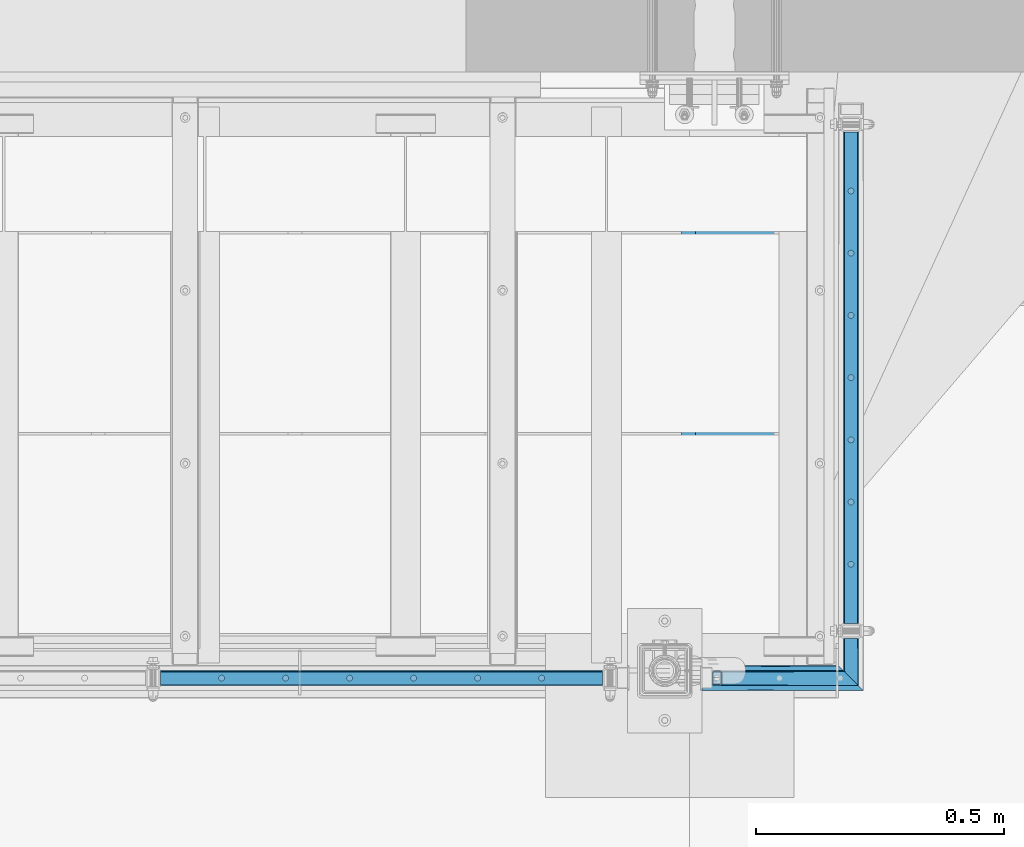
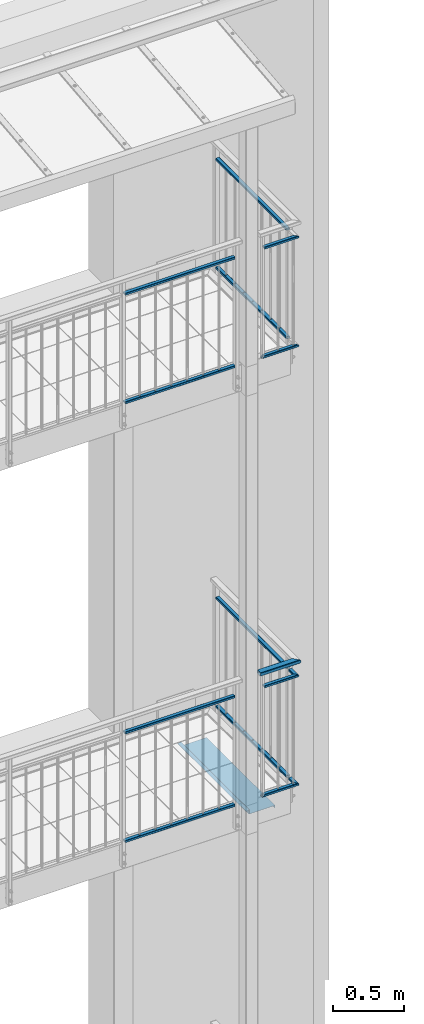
# One storey, part 52 of 162: 16 beams, 65 openings.
"""IFC2X3 building model written with IfcOpenShell, lengths in millimetres."""

from ifc_helpers import new_model, entity, si_unit, converted_unit, frame, frame_2d, origin, origin_with_axes, origin_2d, origin_2d_with_axis, place, context, project, spatial, polyline, hollow_rectangle, circle, outline, extrude, clip, halfspace, material, element, save


model = new_model("IFC2X3")

# Units and contexts
model_context = context("Model", 3, precision=1e-09, world=origin_with_axes())
ifc_project = project(units=[si_unit("LENGTHUNIT", "METRE", prefix="MILLI"), si_unit("AREAUNIT", "SQUARE_METRE"), si_unit("VOLUMEUNIT", "CUBIC_METRE"), converted_unit("PLANEANGLEUNIT", "DEGREE", entity("IfcPlaneAngleMeasure", 0.01745329), si_unit("PLANEANGLEUNIT", "RADIAN"), dimensions=[0, 0, 0, 0, 0, 0, 0])], contexts=[model_context])

# Site, building, storey
site_placement = place(None, origin_with_axes())
site = spatial("IfcSite", under=ifc_project, at=site_placement, Name="Hermannstra?e 1a, 60318 Frankfurt", CompositionType="ELEMENT")
building_placement = place(site_placement, origin_with_axes())
building = spatial("IfcBuilding", under=site, at=building_placement, Name="Struktur 1", CompositionType="ELEMENT")
storey_placement = place(building_placement, origin_with_axes())
storey = spatial("IfcBuildingStorey", under=building, at=storey_placement, Name="Default Storey", CompositionType="ELEMENT", Elevation=0.0)

# Beam, openings
ifc_material_1 = material(Name="S235JR")
beam_1_placement = place(None, frame((5848.30936482, 2615.609373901, 12439.999), z_axis=(0.0, 1.0, 0.0), x_axis=(0.0, 0.0, -1.0)))
beam_1 = element("IfcBeam", 1, at=beam_1_placement, inside=storey, material=ifc_material_1, Name="-", ObjectType="-", context=model_context, shape_type="SweptSolid", body=[
    extrude(hollow_rectangle(XDim=20.0, YDim=30.0, WallThickness=2.0, InnerFilletRadius=2.0, OuterFilletRadius=4.0, at=origin_2d()), origin(), (0.0, 0.0, -1.0), 990.0),
])
opening_1_placement = place(beam_1_placement, frame((7.5, 0.0, -495.0), z_axis=(1.0, 0.0, 0.0), x_axis=(0.0, -1.0, 0.0)))
element("IfcOpeningElement", 2, at=opening_1_placement, cuts=beam_1, ObjectType="Opening", context=model_context, shape_type="SweptSolid", body=[
    extrude(circle(Radius=6.051, at=origin_2d_with_axis()), origin(), (0.0, 0.0, 1.0), 3.0),
])
opening_2_placement = place(beam_1_placement, frame((7.5, 0.0, -870.75), z_axis=(1.0, 0.0, 0.0), x_axis=(0.0, -1.0, 0.0)))
element("IfcOpeningElement", 3, at=opening_2_placement, cuts=beam_1, ObjectType="Opening", context=model_context, shape_type="SweptSolid", body=[
    extrude(circle(Radius=6.051, at=origin_2d_with_axis()), origin(), (0.0, 0.0, 1.0), 3.0),
])
opening_3_placement = place(beam_1_placement, frame((7.5, 0.0, -620.25), z_axis=(1.0, 0.0, 0.0), x_axis=(0.0, -1.0, 0.0)))
element("IfcOpeningElement", 4, at=opening_3_placement, cuts=beam_1, ObjectType="Opening", context=model_context, shape_type="SweptSolid", body=[
    extrude(circle(Radius=6.051, at=origin_2d_with_axis()), origin(), (0.0, 0.0, 1.0), 3.0),
])
opening_4_placement = place(beam_1_placement, frame((7.5, 0.0, -745.5), z_axis=(1.0, 0.0, 0.0), x_axis=(0.0, -1.0, 0.0)))
element("IfcOpeningElement", 5, at=opening_4_placement, cuts=beam_1, ObjectType="Opening", context=model_context, shape_type="SweptSolid", body=[
    extrude(circle(Radius=6.051, at=origin_2d_with_axis()), origin(), (0.0, 0.0, 1.0), 3.0),
])
opening_5_placement = place(beam_1_placement, frame((7.5, 0.0, -244.5), z_axis=(1.0, 0.0, 0.0), x_axis=(0.0, -1.0, 0.0)))
element("IfcOpeningElement", 6, at=opening_5_placement, cuts=beam_1, ObjectType="Opening", context=model_context, shape_type="SweptSolid", body=[
    extrude(circle(Radius=6.051, at=origin_2d_with_axis()), origin(), (0.0, 0.0, 1.0), 3.0),
])
opening_6_placement = place(beam_1_placement, frame((7.5, 0.0, -369.75), z_axis=(1.0, 0.0, 0.0), x_axis=(0.0, -1.0, 0.0)))
element("IfcOpeningElement", 7, at=opening_6_placement, cuts=beam_1, ObjectType="Opening", context=model_context, shape_type="SweptSolid", body=[
    extrude(circle(Radius=6.051, at=origin_2d_with_axis()), origin(), (0.0, 0.0, 1.0), 3.0),
])
opening_7_placement = place(beam_1_placement, frame((7.5, 0.0, -119.25), z_axis=(1.0, 0.0, 0.0), x_axis=(0.0, -1.0, 0.0)))
element("IfcOpeningElement", 8, at=opening_7_placement, cuts=beam_1, ObjectType="Opening", context=model_context, shape_type="SweptSolid", body=[
    extrude(circle(Radius=6.051, at=origin_2d_with_axis()), origin(), (0.0, 0.0, 1.0), 3.0),
])

beam_2_placement = place(None, frame((5848.30936482, 2615.609373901, 11509.999), z_axis=(0.0, 1.0, 0.0), x_axis=(0.0, 0.0, -1.0)))
beam_2 = element("IfcBeam", 9, at=beam_2_placement, inside=storey, material=ifc_material_1, Name="-", ObjectType="-", context=model_context, shape_type="SweptSolid", body=[
    extrude(hollow_rectangle(XDim=20.0, YDim=30.0, WallThickness=2.0, InnerFilletRadius=2.0, OuterFilletRadius=4.0, at=origin_2d()), origin(), (0.0, 0.0, -1.0), 990.0),
])
opening_8_placement = place(beam_2_placement, frame((-7.5, 0.0, -870.75), z_axis=(-1.0, 0.0, 0.0), x_axis=(0.0, 1.0, 0.0)))
element("IfcOpeningElement", 10, at=opening_8_placement, cuts=beam_2, ObjectType="Opening", context=model_context, shape_type="SweptSolid", body=[
    extrude(circle(Radius=6.051, at=origin_2d_with_axis()), origin(), (0.0, 0.0, 1.0), 3.0),
])
opening_9_placement = place(beam_2_placement, frame((-7.5, 0.0, -745.5), z_axis=(-1.0, 0.0, 0.0), x_axis=(0.0, 1.0, 0.0)))
element("IfcOpeningElement", 11, at=opening_9_placement, cuts=beam_2, ObjectType="Opening", context=model_context, shape_type="SweptSolid", body=[
    extrude(circle(Radius=6.051, at=origin_2d_with_axis()), origin(), (0.0, 0.0, 1.0), 3.0),
])
opening_10_placement = place(beam_2_placement, frame((-7.5, 0.0, -620.25), z_axis=(-1.0, 0.0, 0.0), x_axis=(0.0, 1.0, 0.0)))
element("IfcOpeningElement", 12, at=opening_10_placement, cuts=beam_2, ObjectType="Opening", context=model_context, shape_type="SweptSolid", body=[
    extrude(circle(Radius=6.051, at=origin_2d_with_axis()), origin(), (0.0, 0.0, 1.0), 3.0),
])
opening_11_placement = place(beam_2_placement, frame((-7.5, 0.0, -495.0), z_axis=(-1.0, 0.0, 0.0), x_axis=(0.0, 1.0, 0.0)))
element("IfcOpeningElement", 13, at=opening_11_placement, cuts=beam_2, ObjectType="Opening", context=model_context, shape_type="SweptSolid", body=[
    extrude(circle(Radius=6.051, at=origin_2d_with_axis()), origin(), (0.0, 0.0, 1.0), 3.0),
])
opening_12_placement = place(beam_2_placement, frame((-7.5, 0.0, -369.75), z_axis=(-1.0, 0.0, 0.0), x_axis=(0.0, 1.0, 0.0)))
element("IfcOpeningElement", 14, at=opening_12_placement, cuts=beam_2, ObjectType="Opening", context=model_context, shape_type="SweptSolid", body=[
    extrude(circle(Radius=6.051, at=origin_2d_with_axis()), origin(), (0.0, 0.0, 1.0), 3.0),
])
opening_13_placement = place(beam_2_placement, frame((-7.5, 0.0, -119.25), z_axis=(-1.0, 0.0, 0.0), x_axis=(0.0, 1.0, 0.0)))
element("IfcOpeningElement", 15, at=opening_13_placement, cuts=beam_2, ObjectType="Opening", context=model_context, shape_type="SweptSolid", body=[
    extrude(circle(Radius=6.051, at=origin_2d_with_axis()), origin(), (0.0, 0.0, 1.0), 3.0),
])
opening_14_placement = place(beam_2_placement, frame((-7.5, 0.0, -244.5), z_axis=(-1.0, 0.0, 0.0), x_axis=(0.0, 1.0, 0.0)))
element("IfcOpeningElement", 16, at=opening_14_placement, cuts=beam_2, ObjectType="Opening", context=model_context, shape_type="SweptSolid", body=[
    extrude(circle(Radius=6.051, at=origin_2d_with_axis()), origin(), (0.0, 0.0, 1.0), 3.0),
])

beam_3_placement = place(None, frame((4458.30936482, 1515.609373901, 12439.999), z_axis=(-1.0, 0.0, 0.0), x_axis=(0.0, 0.0, -1.0)))
beam_3 = element("IfcBeam", 17, at=beam_3_placement, inside=storey, material=ifc_material_1, Name="-", ObjectType="-", context=model_context, shape_type="SweptSolid", body=[
    extrude(hollow_rectangle(XDim=20.0, YDim=30.0, WallThickness=2.0, InnerFilletRadius=2.0, OuterFilletRadius=4.0, at=origin_2d()), origin(), (0.0, 0.0, -1.0), 890.0),
])
opening_15_placement = place(beam_3_placement, frame((7.5, 0.0, -251.714285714), z_axis=(1.0, 0.0, 0.0), x_axis=(0.0, -1.0, 0.0)))
element("IfcOpeningElement", 18, at=opening_15_placement, cuts=beam_3, ObjectType="Opening", context=model_context, shape_type="SweptSolid", body=[
    extrude(circle(Radius=6.051, at=origin_2d_with_axis()), origin(), (0.0, 0.0, 1.0), 3.0),
])
opening_16_placement = place(beam_3_placement, frame((7.5, 0.0, -122.857142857), z_axis=(1.0, 0.0, 0.0), x_axis=(0.0, -1.0, 0.0)))
element("IfcOpeningElement", 19, at=opening_16_placement, cuts=beam_3, ObjectType="Opening", context=model_context, shape_type="SweptSolid", body=[
    extrude(circle(Radius=6.051, at=origin_2d_with_axis()), origin(), (0.0, 0.0, 1.0), 3.0),
])
opening_17_placement = place(beam_3_placement, frame((7.5, 0.0, -509.428571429), z_axis=(1.0, 0.0, 0.0), x_axis=(0.0, -1.0, 0.0)))
element("IfcOpeningElement", 20, at=opening_17_placement, cuts=beam_3, ObjectType="Opening", context=model_context, shape_type="SweptSolid", body=[
    extrude(circle(Radius=6.051, at=origin_2d_with_axis()), origin(), (0.0, 0.0, 1.0), 3.0),
])
opening_18_placement = place(beam_3_placement, frame((7.5, 0.0, -380.571428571), z_axis=(1.0, 0.0, 0.0), x_axis=(0.0, -1.0, 0.0)))
element("IfcOpeningElement", 21, at=opening_18_placement, cuts=beam_3, ObjectType="Opening", context=model_context, shape_type="SweptSolid", body=[
    extrude(circle(Radius=6.051, at=origin_2d_with_axis()), origin(), (0.0, 0.0, 1.0), 3.0),
])
opening_19_placement = place(beam_3_placement, frame((7.5, 0.0, -638.285714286), z_axis=(1.0, 0.0, 0.0), x_axis=(0.0, -1.0, 0.0)))
element("IfcOpeningElement", 22, at=opening_19_placement, cuts=beam_3, ObjectType="Opening", context=model_context, shape_type="SweptSolid", body=[
    extrude(circle(Radius=6.051, at=origin_2d_with_axis()), origin(), (0.0, 0.0, 1.0), 3.0),
])
opening_20_placement = place(beam_3_placement, frame((7.5, 0.0, -767.142857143), z_axis=(1.0, 0.0, 0.0), x_axis=(0.0, -1.0, 0.0)))
element("IfcOpeningElement", 23, at=opening_20_placement, cuts=beam_3, ObjectType="Opening", context=model_context, shape_type="SweptSolid", body=[
    extrude(circle(Radius=6.051, at=origin_2d_with_axis()), origin(), (0.0, 0.0, 1.0), 3.0),
])

beam_4_placement = place(None, frame((4458.30936482, 1515.609373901, 11509.999), z_axis=(-1.0, 0.0, 0.0), x_axis=(0.0, 0.0, -1.0)))
beam_4 = element("IfcBeam", 24, at=beam_4_placement, inside=storey, material=ifc_material_1, Name="-", ObjectType="-", context=model_context, shape_type="SweptSolid", body=[
    extrude(hollow_rectangle(XDim=20.0, YDim=30.0, WallThickness=2.0, InnerFilletRadius=2.0, OuterFilletRadius=4.0, at=origin_2d()), origin(), (0.0, 0.0, -1.0), 890.0),
])
opening_21_placement = place(beam_4_placement, frame((-7.5, 0.0, -122.857142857), z_axis=(-1.0, 0.0, 0.0), x_axis=(0.0, 1.0, 0.0)))
element("IfcOpeningElement", 25, at=opening_21_placement, cuts=beam_4, ObjectType="Opening", context=model_context, shape_type="SweptSolid", body=[
    extrude(circle(Radius=6.051, at=origin_2d_with_axis()), origin(), (0.0, 0.0, 1.0), 3.0),
])
opening_22_placement = place(beam_4_placement, frame((-7.5, 0.0, -251.714285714), z_axis=(-1.0, 0.0, 0.0), x_axis=(0.0, 1.0, 0.0)))
element("IfcOpeningElement", 26, at=opening_22_placement, cuts=beam_4, ObjectType="Opening", context=model_context, shape_type="SweptSolid", body=[
    extrude(circle(Radius=6.051, at=origin_2d_with_axis()), origin(), (0.0, 0.0, 1.0), 3.0),
])
opening_23_placement = place(beam_4_placement, frame((-7.5, 0.0, -638.285714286), z_axis=(-1.0, 0.0, 0.0), x_axis=(0.0, 1.0, 0.0)))
element("IfcOpeningElement", 27, at=opening_23_placement, cuts=beam_4, ObjectType="Opening", context=model_context, shape_type="SweptSolid", body=[
    extrude(circle(Radius=6.051, at=origin_2d_with_axis()), origin(), (0.0, 0.0, 1.0), 3.0),
])
opening_24_placement = place(beam_4_placement, frame((-7.5, 0.0, -509.428571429), z_axis=(-1.0, 0.0, 0.0), x_axis=(0.0, 1.0, 0.0)))
element("IfcOpeningElement", 28, at=opening_24_placement, cuts=beam_4, ObjectType="Opening", context=model_context, shape_type="SweptSolid", body=[
    extrude(circle(Radius=6.051, at=origin_2d_with_axis()), origin(), (0.0, 0.0, 1.0), 3.0),
])
opening_25_placement = place(beam_4_placement, frame((-7.5, 0.0, -767.142857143), z_axis=(-1.0, 0.0, 0.0), x_axis=(0.0, 1.0, 0.0)))
element("IfcOpeningElement", 29, at=opening_25_placement, cuts=beam_4, ObjectType="Opening", context=model_context, shape_type="SweptSolid", body=[
    extrude(circle(Radius=6.051, at=origin_2d_with_axis()), origin(), (0.0, 0.0, 1.0), 3.0),
])
opening_26_placement = place(beam_4_placement, frame((-7.5, 0.0, -380.571428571), z_axis=(-1.0, 0.0, 0.0), x_axis=(0.0, 1.0, 0.0)))
element("IfcOpeningElement", 30, at=opening_26_placement, cuts=beam_4, ObjectType="Opening", context=model_context, shape_type="SweptSolid", body=[
    extrude(circle(Radius=6.051, at=origin_2d_with_axis()), origin(), (0.0, 0.0, 1.0), 3.0),
])

beam_5_placement = place(None, frame((5873.804462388, 1515.609373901, 11509.999), z_axis=(-1.0, 0.0, 0.0), x_axis=(0.0, 0.0, -1.0)))
beam_5 = element("IfcBeam", 31, at=beam_5_placement, inside=storey, material=ifc_material_1, Name="-", ObjectType="-", context=model_context, shape_type="Clipping", body=[
    clip(clip(extrude(hollow_rectangle(XDim=20.0, YDim=30.0, WallThickness=2.0, InnerFilletRadius=2.0, OuterFilletRadius=4.0, at=origin_2d()), origin(), (0.0, 0.0, 1.0), 320.990195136), halfspace(frame((8544.154889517, 1515.609373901, 8839.648572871), z_axis=(0.707106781, 0.0, -0.707106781), x_axis=(0.0, -1.0, 0.0)), True)), halfspace(frame((11509.999, -2166.349288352, 2191.845800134), z_axis=(0.0, 0.707106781, 0.707106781), x_axis=(0.0, 0.707106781, -0.707106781)), True)),
])
opening_27_placement = place(beam_5_placement, frame((-7.5, -6.051, 169.495097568), z_axis=(1.0, 0.0, 0.0), x_axis=(0.0, 1.0, 0.0)))
element("IfcOpeningElement", 32, at=opening_27_placement, cuts=beam_5, ObjectType="Opening", context=model_context, shape_type="SweptSolid", body=[
    extrude(circle(Radius=6.051, at=frame_2d((6.051, 0.0), x_axis=(1.0, 0.0))), origin(), (0.0, 0.0, -1.0), 3.0),
])
opening_28_placement = place(beam_5_placement, frame((7.5, 0.0, 265.495097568), z_axis=(1.0, 0.0, 0.0), x_axis=(0.0, 0.0, 1.0)))
element("IfcOpeningElement", 33, at=opening_28_placement, cuts=beam_5, ObjectType="Opening", context=model_context, shape_type="SweptSolid", body=[
    extrude(circle(Radius=5.001, at=frame_2d((30.0, 0.0), x_axis=(1.0, 0.0))), origin(), (0.0, 0.0, 1.0), 3.0),
])
opening_29_placement = place(beam_5_placement, frame((-7.5, -6.051, 47.495097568), z_axis=(1.0, 0.0, 0.0), x_axis=(0.0, 1.0, 0.0)))
element("IfcOpeningElement", 34, at=opening_29_placement, cuts=beam_5, ObjectType="Opening", context=model_context, shape_type="SweptSolid", body=[
    extrude(circle(Radius=6.051, at=frame_2d((6.051, 0.0), x_axis=(1.0, 0.0))), origin(), (0.0, 0.0, -1.0), 3.0),
])

beam_6_placement = place(None, frame((5873.804462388, 1515.609373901, 12439.999), z_axis=(-1.0, 0.0, 0.0), x_axis=(0.0, 0.0, -1.0)))
beam_6 = element("IfcBeam", 35, at=beam_6_placement, inside=storey, material=ifc_material_1, Name="-", ObjectType="-", context=model_context, shape_type="Clipping", body=[
    clip(extrude(hollow_rectangle(XDim=20.0, YDim=30.0, WallThickness=2.0, InnerFilletRadius=2.0, OuterFilletRadius=4.0, at=origin_2d()), origin(), (0.0, 0.0, 1.0), 285.495097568), halfspace(frame((12439.999, -2166.349288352, 2191.845800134), z_axis=(0.0, 0.707106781, 0.707106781), x_axis=(0.0, 0.707106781, -0.707106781)), True)),
])
opening_30_placement = place(beam_6_placement, frame((7.5, 6.051, 169.495097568), z_axis=(-1.0, 0.0, 0.0), x_axis=(0.0, -1.0, 0.0)))
element("IfcOpeningElement", 36, at=opening_30_placement, cuts=beam_6, ObjectType="Opening", context=model_context, shape_type="SweptSolid", body=[
    extrude(circle(Radius=6.051, at=frame_2d((6.051, 0.0), x_axis=(1.0, 0.0))), origin(), (0.0, 0.0, -1.0), 3.0),
])
opening_31_placement = place(beam_6_placement, frame((7.5, 6.051, 47.495097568), z_axis=(-1.0, 0.0, 0.0), x_axis=(0.0, -1.0, 0.0)))
element("IfcOpeningElement", 37, at=opening_31_placement, cuts=beam_6, ObjectType="Opening", context=model_context, shape_type="SweptSolid", body=[
    extrude(circle(Radius=6.051, at=frame_2d((6.051, 0.0), x_axis=(1.0, 0.0))), origin(), (0.0, 0.0, -1.0), 3.0),
])

# Beam, opening
beam_7_placement = place(None, frame((5889.540421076, 1515.609373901, 12564.999), z_axis=(-1.0, 0.0, 0.0), x_axis=(0.0, 0.0, -1.0)))
beam_7 = element("IfcBeam", 38, at=beam_7_placement, inside=storey, material=ifc_material_1, Name="-", ObjectType="-", context=model_context, shape_type="Clipping", body=[
    clip(extrude(hollow_rectangle(XDim=30.0, YDim=50.0, WallThickness=3.0, InnerFilletRadius=3.0, OuterFilletRadius=6.0, at=origin_2d()), origin(), (0.0, 0.0, 1.0), 341.231056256), halfspace(frame((12564.999, -2166.349288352, 2207.581758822), z_axis=(0.0, 0.707106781, 0.707106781), x_axis=(0.0, 0.707106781, -0.707106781)), True)),
])
opening_32_placement = place(beam_7_placement, frame((11.5, 0.0, 306.231056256), z_axis=(1.0, 0.0, 0.0), x_axis=(0.0, 0.0, 1.0)))
element("IfcOpeningElement", 39, at=opening_32_placement, cuts=beam_7, ObjectType="Opening", context=model_context, shape_type="SweptSolid", body=[
    extrude(circle(Radius=5.001, at=frame_2d((5.0, 0.0), x_axis=(1.0, 0.0))), origin(), (0.0, 0.0, 1.0), 4.0),
])

beam_8_placement = place(None, frame((5848.30936482, 1490.114276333, 11509.999), z_axis=(0.0, 1.0, 0.0), x_axis=(0.0, 0.0, -1.0)))
beam_8 = element("IfcBeam", 40, at=beam_8_placement, inside=storey, material=ifc_material_1, Name="-", ObjectType="-", context=model_context, shape_type="Clipping", body=[
    clip(extrude(hollow_rectangle(XDim=20.0, YDim=30.0, WallThickness=2.0, InnerFilletRadius=2.0, OuterFilletRadius=4.0, at=origin_2d()), origin(), (0.0, 0.0, 1.0), 105.495097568), halfspace(frame((11509.999, 2166.349288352, 2191.845800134), z_axis=(0.0, -0.707106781, 0.707106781), x_axis=(0.0, 0.707106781, 0.707106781)), True)),
])
opening_33_placement = place(beam_8_placement, frame((0.0, -12.5, 10.496511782), z_axis=(0.0, -1.0, 0.0), x_axis=(0.0, 0.0, 1.0)))
element("IfcOpeningElement", 41, at=opening_33_placement, cuts=beam_8, ObjectType="Opening", context=model_context, shape_type="SweptSolid", body=[
    extrude(circle(Radius=4.001, at=frame_2d((10.0, 0.0), x_axis=(1.0, 0.0))), origin(), (0.0, 0.0, 1.0), 3.0),
])

beam_9_placement = place(None, frame((5848.30936482, 1490.114276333, 12439.999), z_axis=(0.0, 1.0, 0.0), x_axis=(0.0, 0.0, -1.0)))
beam_9 = element("IfcBeam", 42, at=beam_9_placement, inside=storey, material=ifc_material_1, Name="-", ObjectType="-", context=model_context, shape_type="Clipping", body=[
    clip(extrude(hollow_rectangle(XDim=20.0, YDim=30.0, WallThickness=2.0, InnerFilletRadius=2.0, OuterFilletRadius=4.0, at=origin_2d()), origin(), (0.0, 0.0, 1.0), 105.495097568), halfspace(frame((12439.999, 2166.349288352, 2191.845800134), z_axis=(0.0, -0.707106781, 0.707106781), x_axis=(0.0, 0.707106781, 0.707106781)), True)),
])
opening_34_placement = place(beam_9_placement, frame((0.0, -12.5, 10.495097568), z_axis=(0.0, -1.0, 0.0), x_axis=(0.0, 0.0, 1.0)))
element("IfcOpeningElement", 43, at=opening_34_placement, cuts=beam_9, ObjectType="Opening", context=model_context, shape_type="SweptSolid", body=[
    extrude(circle(Radius=4.001, at=frame_2d((10.0, 0.0), x_axis=(1.0, 0.0))), origin(), (0.0, 0.0, 1.0), 3.0),
])

# Beam
ifc_material_2 = material(Name="Alu")
beam_10_placement = place(None, frame((5742.80936482, 1625.609373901, 11276.999), z_axis=(0.0, -1.0, 0.0), x_axis=(1.0, 0.0, 0.0)))
element("IfcBeam", 44, at=beam_10_placement, inside=storey, material=ifc_material_2, Name="-", ObjectType="-", context=model_context, shape_type="SweptSolid", body=[
    extrude(outline(polyline([(-235.449159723, 49.122617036), (-210.0, 52.699263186), (-210.0, 18.0), (-2.0, 18.0), (-2.0, 0.0), (0.0, 0.0), (0.0, 20.0), (-208.0, 20.0), (-208.0, 55.0), (-235.727505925, 51.103153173), (-235.449159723, 49.122617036)])), origin(), (0.0, 0.0, -1.0), 960.0),
])

# Beam, openings
beam_11_placement = place(None, frame((5848.30936482, 2615.609373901, 16196.999), z_axis=(0.0, 1.0, 0.0), x_axis=(0.0, 0.0, -1.0)))
beam_11 = element("IfcBeam", 45, at=beam_11_placement, inside=storey, material=ifc_material_1, Name="-", ObjectType="-", context=model_context, shape_type="SweptSolid", body=[
    extrude(hollow_rectangle(XDim=20.0, YDim=30.0, WallThickness=2.0, InnerFilletRadius=2.0, OuterFilletRadius=4.0, at=origin_2d()), origin(), (0.0, 0.0, -1.0), 990.0),
])
opening_35_placement = place(beam_11_placement, frame((7.5, 0.0, -495.0), z_axis=(1.0, 0.0, 0.0), x_axis=(0.0, -1.0, 0.0)))
element("IfcOpeningElement", 46, at=opening_35_placement, cuts=beam_11, ObjectType="Opening", context=model_context, shape_type="SweptSolid", body=[
    extrude(circle(Radius=6.051, at=origin_2d_with_axis()), origin(), (0.0, 0.0, 1.0), 3.0),
])
opening_36_placement = place(beam_11_placement, frame((7.5, 0.0, -870.75), z_axis=(1.0, 0.0, 0.0), x_axis=(0.0, -1.0, 0.0)))
element("IfcOpeningElement", 47, at=opening_36_placement, cuts=beam_11, ObjectType="Opening", context=model_context, shape_type="SweptSolid", body=[
    extrude(circle(Radius=6.051, at=origin_2d_with_axis()), origin(), (0.0, 0.0, 1.0), 3.0),
])
opening_37_placement = place(beam_11_placement, frame((7.5, 0.0, -620.25), z_axis=(1.0, 0.0, 0.0), x_axis=(0.0, -1.0, 0.0)))
element("IfcOpeningElement", 48, at=opening_37_placement, cuts=beam_11, ObjectType="Opening", context=model_context, shape_type="SweptSolid", body=[
    extrude(circle(Radius=6.051, at=origin_2d_with_axis()), origin(), (0.0, 0.0, 1.0), 3.0),
])
opening_38_placement = place(beam_11_placement, frame((7.5, 0.0, -745.5), z_axis=(1.0, 0.0, 0.0), x_axis=(0.0, -1.0, 0.0)))
element("IfcOpeningElement", 49, at=opening_38_placement, cuts=beam_11, ObjectType="Opening", context=model_context, shape_type="SweptSolid", body=[
    extrude(circle(Radius=6.051, at=origin_2d_with_axis()), origin(), (0.0, 0.0, 1.0), 3.0),
])
opening_39_placement = place(beam_11_placement, frame((7.5, 0.0, -244.5), z_axis=(1.0, 0.0, 0.0), x_axis=(0.0, -1.0, 0.0)))
element("IfcOpeningElement", 50, at=opening_39_placement, cuts=beam_11, ObjectType="Opening", context=model_context, shape_type="SweptSolid", body=[
    extrude(circle(Radius=6.051, at=origin_2d_with_axis()), origin(), (0.0, 0.0, 1.0), 3.0),
])
opening_40_placement = place(beam_11_placement, frame((7.5, 0.0, -369.75), z_axis=(1.0, 0.0, 0.0), x_axis=(0.0, -1.0, 0.0)))
element("IfcOpeningElement", 51, at=opening_40_placement, cuts=beam_11, ObjectType="Opening", context=model_context, shape_type="SweptSolid", body=[
    extrude(circle(Radius=6.051, at=origin_2d_with_axis()), origin(), (0.0, 0.0, 1.0), 3.0),
])
opening_41_placement = place(beam_11_placement, frame((7.5, 0.0, -119.25), z_axis=(1.0, 0.0, 0.0), x_axis=(0.0, -1.0, 0.0)))
element("IfcOpeningElement", 52, at=opening_41_placement, cuts=beam_11, ObjectType="Opening", context=model_context, shape_type="SweptSolid", body=[
    extrude(circle(Radius=6.051, at=origin_2d_with_axis()), origin(), (0.0, 0.0, 1.0), 3.0),
])

beam_12_placement = place(None, frame((5848.30936482, 2615.609373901, 15266.999), z_axis=(0.0, 1.0, 0.0), x_axis=(0.0, 0.0, -1.0)))
beam_12 = element("IfcBeam", 53, at=beam_12_placement, inside=storey, material=ifc_material_1, Name="-", ObjectType="-", context=model_context, shape_type="SweptSolid", body=[
    extrude(hollow_rectangle(XDim=20.0, YDim=30.0, WallThickness=2.0, InnerFilletRadius=2.0, OuterFilletRadius=4.0, at=origin_2d()), origin(), (0.0, 0.0, -1.0), 990.0),
])
opening_42_placement = place(beam_12_placement, frame((-7.5, 0.0, -870.75), z_axis=(-1.0, 0.0, 0.0), x_axis=(0.0, 1.0, 0.0)))
element("IfcOpeningElement", 54, at=opening_42_placement, cuts=beam_12, ObjectType="Opening", context=model_context, shape_type="SweptSolid", body=[
    extrude(circle(Radius=6.051, at=origin_2d_with_axis()), origin(), (0.0, 0.0, 1.0), 3.0),
])
opening_43_placement = place(beam_12_placement, frame((-7.5, 0.0, -745.5), z_axis=(-1.0, 0.0, 0.0), x_axis=(0.0, 1.0, 0.0)))
element("IfcOpeningElement", 55, at=opening_43_placement, cuts=beam_12, ObjectType="Opening", context=model_context, shape_type="SweptSolid", body=[
    extrude(circle(Radius=6.051, at=origin_2d_with_axis()), origin(), (0.0, 0.0, 1.0), 3.0),
])
opening_44_placement = place(beam_12_placement, frame((-7.5, 0.0, -620.25), z_axis=(-1.0, 0.0, 0.0), x_axis=(0.0, 1.0, 0.0)))
element("IfcOpeningElement", 56, at=opening_44_placement, cuts=beam_12, ObjectType="Opening", context=model_context, shape_type="SweptSolid", body=[
    extrude(circle(Radius=6.051, at=origin_2d_with_axis()), origin(), (0.0, 0.0, 1.0), 3.0),
])
opening_45_placement = place(beam_12_placement, frame((-7.5, 0.0, -495.0), z_axis=(-1.0, 0.0, 0.0), x_axis=(0.0, 1.0, 0.0)))
element("IfcOpeningElement", 57, at=opening_45_placement, cuts=beam_12, ObjectType="Opening", context=model_context, shape_type="SweptSolid", body=[
    extrude(circle(Radius=6.051, at=origin_2d_with_axis()), origin(), (0.0, 0.0, 1.0), 3.0),
])
opening_46_placement = place(beam_12_placement, frame((-7.5, 0.0, -369.75), z_axis=(-1.0, 0.0, 0.0), x_axis=(0.0, 1.0, 0.0)))
element("IfcOpeningElement", 58, at=opening_46_placement, cuts=beam_12, ObjectType="Opening", context=model_context, shape_type="SweptSolid", body=[
    extrude(circle(Radius=6.051, at=origin_2d_with_axis()), origin(), (0.0, 0.0, 1.0), 3.0),
])
opening_47_placement = place(beam_12_placement, frame((-7.5, 0.0, -119.25), z_axis=(-1.0, 0.0, 0.0), x_axis=(0.0, 1.0, 0.0)))
element("IfcOpeningElement", 59, at=opening_47_placement, cuts=beam_12, ObjectType="Opening", context=model_context, shape_type="SweptSolid", body=[
    extrude(circle(Radius=6.051, at=origin_2d_with_axis()), origin(), (0.0, 0.0, 1.0), 3.0),
])
opening_48_placement = place(beam_12_placement, frame((-7.5, 0.0, -244.5), z_axis=(-1.0, 0.0, 0.0), x_axis=(0.0, 1.0, 0.0)))
element("IfcOpeningElement", 60, at=opening_48_placement, cuts=beam_12, ObjectType="Opening", context=model_context, shape_type="SweptSolid", body=[
    extrude(circle(Radius=6.051, at=origin_2d_with_axis()), origin(), (0.0, 0.0, 1.0), 3.0),
])

beam_13_placement = place(None, frame((4458.30936482, 1515.609373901, 16196.999), z_axis=(-1.0, 0.0, 0.0), x_axis=(0.0, 0.0, -1.0)))
beam_13 = element("IfcBeam", 61, at=beam_13_placement, inside=storey, material=ifc_material_1, Name="-", ObjectType="-", context=model_context, shape_type="SweptSolid", body=[
    extrude(hollow_rectangle(XDim=20.0, YDim=30.0, WallThickness=2.0, InnerFilletRadius=2.0, OuterFilletRadius=4.0, at=origin_2d()), origin(), (0.0, 0.0, -1.0), 890.0),
])
opening_49_placement = place(beam_13_placement, frame((7.5, 0.0, -251.714285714), z_axis=(1.0, 0.0, 0.0), x_axis=(0.0, -1.0, 0.0)))
element("IfcOpeningElement", 62, at=opening_49_placement, cuts=beam_13, ObjectType="Opening", context=model_context, shape_type="SweptSolid", body=[
    extrude(circle(Radius=6.051, at=origin_2d_with_axis()), origin(), (0.0, 0.0, 1.0), 3.0),
])
opening_50_placement = place(beam_13_placement, frame((7.5, 0.0, -122.857142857), z_axis=(1.0, 0.0, 0.0), x_axis=(0.0, -1.0, 0.0)))
element("IfcOpeningElement", 63, at=opening_50_placement, cuts=beam_13, ObjectType="Opening", context=model_context, shape_type="SweptSolid", body=[
    extrude(circle(Radius=6.051, at=origin_2d_with_axis()), origin(), (0.0, 0.0, 1.0), 3.0),
])
opening_51_placement = place(beam_13_placement, frame((7.5, 0.0, -509.428571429), z_axis=(1.0, 0.0, 0.0), x_axis=(0.0, -1.0, 0.0)))
element("IfcOpeningElement", 64, at=opening_51_placement, cuts=beam_13, ObjectType="Opening", context=model_context, shape_type="SweptSolid", body=[
    extrude(circle(Radius=6.051, at=origin_2d_with_axis()), origin(), (0.0, 0.0, 1.0), 3.0),
])
opening_52_placement = place(beam_13_placement, frame((7.5, 0.0, -380.571428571), z_axis=(1.0, 0.0, 0.0), x_axis=(0.0, -1.0, 0.0)))
element("IfcOpeningElement", 65, at=opening_52_placement, cuts=beam_13, ObjectType="Opening", context=model_context, shape_type="SweptSolid", body=[
    extrude(circle(Radius=6.051, at=origin_2d_with_axis()), origin(), (0.0, 0.0, 1.0), 3.0),
])
opening_53_placement = place(beam_13_placement, frame((7.5, 0.0, -638.285714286), z_axis=(1.0, 0.0, 0.0), x_axis=(0.0, -1.0, 0.0)))
element("IfcOpeningElement", 66, at=opening_53_placement, cuts=beam_13, ObjectType="Opening", context=model_context, shape_type="SweptSolid", body=[
    extrude(circle(Radius=6.051, at=origin_2d_with_axis()), origin(), (0.0, 0.0, 1.0), 3.0),
])
opening_54_placement = place(beam_13_placement, frame((7.5, 0.0, -767.142857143), z_axis=(1.0, 0.0, 0.0), x_axis=(0.0, -1.0, 0.0)))
element("IfcOpeningElement", 67, at=opening_54_placement, cuts=beam_13, ObjectType="Opening", context=model_context, shape_type="SweptSolid", body=[
    extrude(circle(Radius=6.051, at=origin_2d_with_axis()), origin(), (0.0, 0.0, 1.0), 3.0),
])

beam_14_placement = place(None, frame((4458.30936482, 1515.609373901, 15266.999), z_axis=(-1.0, 0.0, 0.0), x_axis=(0.0, 0.0, -1.0)))
beam_14 = element("IfcBeam", 68, at=beam_14_placement, inside=storey, material=ifc_material_1, Name="-", ObjectType="-", context=model_context, shape_type="SweptSolid", body=[
    extrude(hollow_rectangle(XDim=20.0, YDim=30.0, WallThickness=2.0, InnerFilletRadius=2.0, OuterFilletRadius=4.0, at=origin_2d()), origin(), (0.0, 0.0, -1.0), 890.0),
])
opening_55_placement = place(beam_14_placement, frame((-7.5, 0.0, -122.857142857), z_axis=(-1.0, 0.0, 0.0), x_axis=(0.0, 1.0, 0.0)))
element("IfcOpeningElement", 69, at=opening_55_placement, cuts=beam_14, ObjectType="Opening", context=model_context, shape_type="SweptSolid", body=[
    extrude(circle(Radius=6.051, at=origin_2d_with_axis()), origin(), (0.0, 0.0, 1.0), 3.0),
])
opening_56_placement = place(beam_14_placement, frame((-7.5, 0.0, -251.714285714), z_axis=(-1.0, 0.0, 0.0), x_axis=(0.0, 1.0, 0.0)))
element("IfcOpeningElement", 70, at=opening_56_placement, cuts=beam_14, ObjectType="Opening", context=model_context, shape_type="SweptSolid", body=[
    extrude(circle(Radius=6.051, at=origin_2d_with_axis()), origin(), (0.0, 0.0, 1.0), 3.0),
])
opening_57_placement = place(beam_14_placement, frame((-7.5, 0.0, -638.285714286), z_axis=(-1.0, 0.0, 0.0), x_axis=(0.0, 1.0, 0.0)))
element("IfcOpeningElement", 71, at=opening_57_placement, cuts=beam_14, ObjectType="Opening", context=model_context, shape_type="SweptSolid", body=[
    extrude(circle(Radius=6.051, at=origin_2d_with_axis()), origin(), (0.0, 0.0, 1.0), 3.0),
])
opening_58_placement = place(beam_14_placement, frame((-7.5, 0.0, -509.428571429), z_axis=(-1.0, 0.0, 0.0), x_axis=(0.0, 1.0, 0.0)))
element("IfcOpeningElement", 72, at=opening_58_placement, cuts=beam_14, ObjectType="Opening", context=model_context, shape_type="SweptSolid", body=[
    extrude(circle(Radius=6.051, at=origin_2d_with_axis()), origin(), (0.0, 0.0, 1.0), 3.0),
])
opening_59_placement = place(beam_14_placement, frame((-7.5, 0.0, -767.142857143), z_axis=(-1.0, 0.0, 0.0), x_axis=(0.0, 1.0, 0.0)))
element("IfcOpeningElement", 73, at=opening_59_placement, cuts=beam_14, ObjectType="Opening", context=model_context, shape_type="SweptSolid", body=[
    extrude(circle(Radius=6.051, at=origin_2d_with_axis()), origin(), (0.0, 0.0, 1.0), 3.0),
])
opening_60_placement = place(beam_14_placement, frame((-7.5, 0.0, -380.571428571), z_axis=(-1.0, 0.0, 0.0), x_axis=(0.0, 1.0, 0.0)))
element("IfcOpeningElement", 74, at=opening_60_placement, cuts=beam_14, ObjectType="Opening", context=model_context, shape_type="SweptSolid", body=[
    extrude(circle(Radius=6.051, at=origin_2d_with_axis()), origin(), (0.0, 0.0, 1.0), 3.0),
])

beam_15_placement = place(None, frame((5873.804462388, 1515.609373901, 15266.999), z_axis=(-1.0, 0.0, 0.0), x_axis=(0.0, 0.0, -1.0)))
beam_15 = element("IfcBeam", 75, at=beam_15_placement, inside=storey, material=ifc_material_1, Name="-", ObjectType="-", context=model_context, shape_type="Clipping", body=[
    clip(clip(extrude(hollow_rectangle(XDim=20.0, YDim=30.0, WallThickness=2.0, InnerFilletRadius=2.0, OuterFilletRadius=4.0, at=origin_2d()), origin(), (0.0, 0.0, 1.0), 320.990195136), halfspace(frame((10422.654889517, 1515.609373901, 10718.148572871), z_axis=(0.707106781, 0.0, -0.707106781), x_axis=(0.0, -1.0, 0.0)), True)), halfspace(frame((15266.999, -2166.349288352, 2191.845800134), z_axis=(0.0, 0.707106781, 0.707106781), x_axis=(0.0, 0.707106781, -0.707106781)), True)),
])
opening_61_placement = place(beam_15_placement, frame((-7.5, -6.051, 169.495097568), z_axis=(1.0, 0.0, 0.0), x_axis=(0.0, 1.0, 0.0)))
element("IfcOpeningElement", 76, at=opening_61_placement, cuts=beam_15, ObjectType="Opening", context=model_context, shape_type="SweptSolid", body=[
    extrude(circle(Radius=6.051, at=frame_2d((6.051, 0.0), x_axis=(1.0, 0.0))), origin(), (0.0, 0.0, -1.0), 3.0),
])
opening_62_placement = place(beam_15_placement, frame((7.5, 0.0, 265.495097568), z_axis=(1.0, 0.0, 0.0), x_axis=(0.0, 0.0, 1.0)))
element("IfcOpeningElement", 77, at=opening_62_placement, cuts=beam_15, ObjectType="Opening", context=model_context, shape_type="SweptSolid", body=[
    extrude(circle(Radius=5.001, at=frame_2d((30.0, 0.0), x_axis=(1.0, 0.0))), origin(), (0.0, 0.0, 1.0), 3.0),
])
opening_63_placement = place(beam_15_placement, frame((-7.5, -6.051, 47.495097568), z_axis=(1.0, 0.0, 0.0), x_axis=(0.0, 1.0, 0.0)))
element("IfcOpeningElement", 78, at=opening_63_placement, cuts=beam_15, ObjectType="Opening", context=model_context, shape_type="SweptSolid", body=[
    extrude(circle(Radius=6.051, at=frame_2d((6.051, 0.0), x_axis=(1.0, 0.0))), origin(), (0.0, 0.0, -1.0), 3.0),
])

beam_16_placement = place(None, frame((5873.804462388, 1515.609373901, 16196.999), z_axis=(-1.0, 0.0, 0.0), x_axis=(0.0, 0.0, -1.0)))
beam_16 = element("IfcBeam", 79, at=beam_16_placement, inside=storey, material=ifc_material_1, Name="-", ObjectType="-", context=model_context, shape_type="Clipping", body=[
    clip(extrude(hollow_rectangle(XDim=20.0, YDim=30.0, WallThickness=2.0, InnerFilletRadius=2.0, OuterFilletRadius=4.0, at=origin_2d()), origin(), (0.0, 0.0, 1.0), 285.495097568), halfspace(frame((16196.999, -2166.349288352, 2191.845800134), z_axis=(0.0, 0.707106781, 0.707106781), x_axis=(0.0, 0.707106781, -0.707106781)), True)),
])
opening_64_placement = place(beam_16_placement, frame((7.5, 6.051, 169.495097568), z_axis=(-1.0, 0.0, 0.0), x_axis=(0.0, -1.0, 0.0)))
element("IfcOpeningElement", 80, at=opening_64_placement, cuts=beam_16, ObjectType="Opening", context=model_context, shape_type="SweptSolid", body=[
    extrude(circle(Radius=6.051, at=frame_2d((6.051, 0.0), x_axis=(1.0, 0.0))), origin(), (0.0, 0.0, -1.0), 3.0),
])
opening_65_placement = place(beam_16_placement, frame((7.5, 6.051, 47.495097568), z_axis=(-1.0, 0.0, 0.0), x_axis=(0.0, -1.0, 0.0)))
element("IfcOpeningElement", 81, at=opening_65_placement, cuts=beam_16, ObjectType="Opening", context=model_context, shape_type="SweptSolid", body=[
    extrude(circle(Radius=6.051, at=frame_2d((6.051, 0.0), x_axis=(1.0, 0.0))), origin(), (0.0, 0.0, -1.0), 3.0),
])

save(model, "model.ifc")
